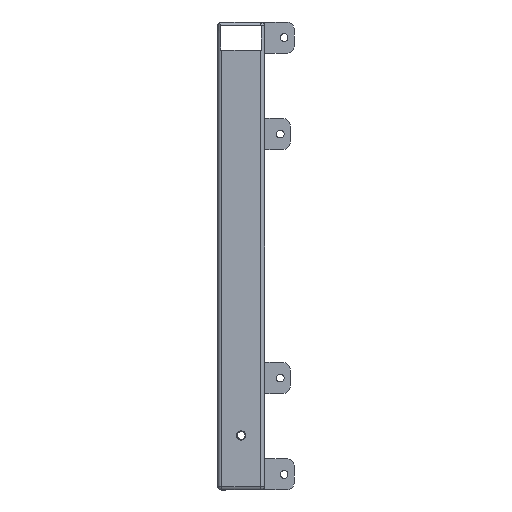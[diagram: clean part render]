
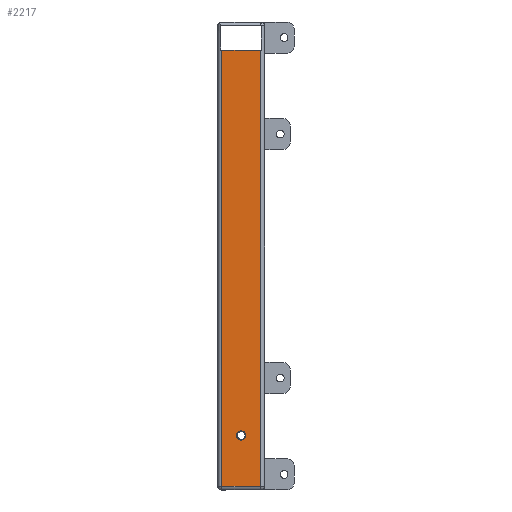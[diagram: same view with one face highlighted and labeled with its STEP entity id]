
A CAD part, left-side view. The second image highlights one B-rep face of the part: STEP entity #2217.
In plain terms, the highlighted planar face has unit normal (-1, 0, 0).
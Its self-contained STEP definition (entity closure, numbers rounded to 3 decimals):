
#2201 = EDGE_CURVE ( 'NONE', #2920, #3036, #6019, .T. ) ;
#2217 = ADVANCED_FACE ( 'NONE', ( #6037, #6036 ), #6035, .T. ) ;
#2218 = EDGE_LOOP ( 'NONE', ( #2219, #2220 ) ) ;
#2219 = ORIENTED_EDGE ( 'NONE', *, *, #8828, .T. ) ;
#2220 = ORIENTED_EDGE ( 'NONE', *, *, #3034, .T. ) ;
#2221 = EDGE_LOOP ( 'NONE', ( #2222, #2278, #2279, #2280 ) ) ;
#2222 = ORIENTED_EDGE ( 'NONE', *, *, #2919, .T. ) ;
#2278 = ORIENTED_EDGE ( 'NONE', *, *, #2971, .T. ) ;
#2279 = ORIENTED_EDGE ( 'NONE', *, *, #3038, .T. ) ;
#2280 = ORIENTED_EDGE ( 'NONE', *, *, #2201, .F. ) ;
#2919 = EDGE_CURVE ( 'NONE', #2920, #8833, #7191, .T. ) ;
#2920 = VERTEX_POINT ( 'NONE', #7186 ) ;
#2971 = EDGE_CURVE ( 'NONE', #8833, #2990, #7290, .T. ) ;
#2990 = VERTEX_POINT ( 'NONE', #7322 ) ;
#3034 = EDGE_CURVE ( 'NONE', #8781, #8823, #7392, .T. ) ;
#3036 = VERTEX_POINT ( 'NONE', #7387 ) ;
#3038 = EDGE_CURVE ( 'NONE', #2990, #3036, #7386, .T. ) ;
#6016 = DIRECTION ( 'NONE',  ( 0., -1., 0. ) ) ;
#6017 = VECTOR ( 'NONE', #6016, 1000. ) ;
#6018 = CARTESIAN_POINT ( 'NONE',  ( -615., 450.01, -5. ) ) ;
#6019 = LINE ( 'NONE', #6018, #6017 ) ;
#6034 = AXIS2_PLACEMENT_3D ( 'NONE', #6088, #6087, #6086 ) ;
#6035 = PLANE ( 'NONE',  #6034 ) ;
#6036 = FACE_OUTER_BOUND ( 'NONE', #2221, .T. ) ;
#6037 = FACE_BOUND ( 'NONE', #2218, .T. ) ;
#6086 = DIRECTION ( 'NONE',  ( 0., 0., 1. ) ) ;
#6087 = DIRECTION ( 'NONE',  ( -1., 0., 0. ) ) ;
#6088 = CARTESIAN_POINT ( 'NONE',  ( -615., 600.01, 0. ) ) ;
#7186 = CARTESIAN_POINT ( 'NONE',  ( -615., 595.01, -5. ) ) ;
#7188 = DIRECTION ( 'NONE',  ( 0., 0., -1. ) ) ;
#7189 = VECTOR ( 'NONE', #7188, 1000. ) ;
#7190 = CARTESIAN_POINT ( 'NONE',  ( -615., 595.01, 0. ) ) ;
#7191 = LINE ( 'NONE', #7190, #7189 ) ;
#7287 = DIRECTION ( 'NONE',  ( 0., -1., 0. ) ) ;
#7288 = VECTOR ( 'NONE', #7287, 1000. ) ;
#7289 = CARTESIAN_POINT ( 'NONE',  ( -615., 600.01, -55. ) ) ;
#7290 = LINE ( 'NONE', #7289, #7288 ) ;
#7322 = CARTESIAN_POINT ( 'NONE',  ( -615., 36.01, -55. ) ) ;
#7383 = DIRECTION ( 'NONE',  ( 0., 0., 1. ) ) ;
#7384 = VECTOR ( 'NONE', #7383, 1000. ) ;
#7385 = CARTESIAN_POINT ( 'NONE',  ( -615., 36.01, 0. ) ) ;
#7386 = LINE ( 'NONE', #7385, #7384 ) ;
#7387 = CARTESIAN_POINT ( 'NONE',  ( -615., 36.01, -5. ) ) ;
#7388 = DIRECTION ( 'NONE',  ( 0., 0., 1. ) ) ;
#7389 = DIRECTION ( 'NONE',  ( 1., 0., 0. ) ) ;
#7390 = CARTESIAN_POINT ( 'NONE',  ( -615., 530.01, -30. ) ) ;
#7391 = AXIS2_PLACEMENT_3D ( 'NONE', #7390, #7389, #7388 ) ;
#7392 = CIRCLE ( 'NONE', #7391, 6. ) ;
#8089 = CARTESIAN_POINT ( 'NONE',  ( -615., 530.01, -36. ) ) ;
#8093 = CARTESIAN_POINT ( 'NONE',  ( -615., 530.01, -24. ) ) ;
#8124 = CARTESIAN_POINT ( 'NONE',  ( -615., 595.01, -55. ) ) ;
#8137 = DIRECTION ( 'NONE',  ( 0., 0., 1. ) ) ;
#8138 = DIRECTION ( 'NONE',  ( 1., 0., 0. ) ) ;
#8139 = CARTESIAN_POINT ( 'NONE',  ( -615., 530.01, -30. ) ) ;
#8140 = AXIS2_PLACEMENT_3D ( 'NONE', #8139, #8138, #8137 ) ;
#8141 = CIRCLE ( 'NONE', #8140, 6. ) ;
#8781 = VERTEX_POINT ( 'NONE', #8089 ) ;
#8823 = VERTEX_POINT ( 'NONE', #8093 ) ;
#8828 = EDGE_CURVE ( 'NONE', #8823, #8781, #8141, .T. ) ;
#8833 = VERTEX_POINT ( 'NONE', #8124 ) ;
